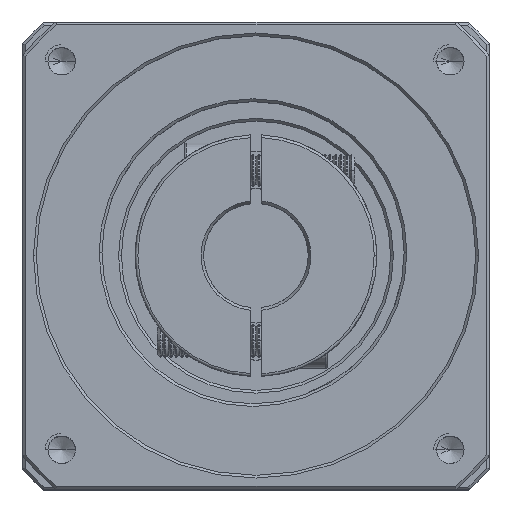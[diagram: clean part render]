
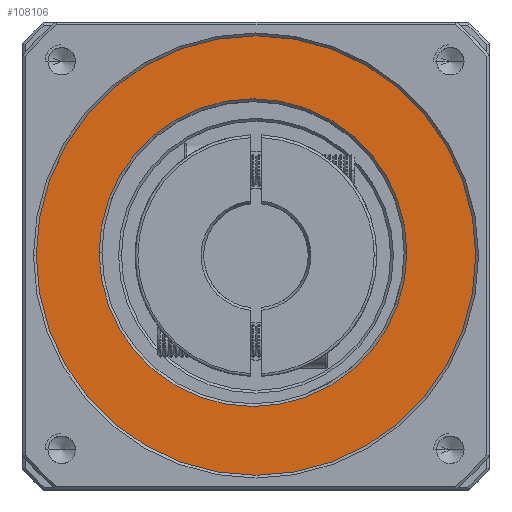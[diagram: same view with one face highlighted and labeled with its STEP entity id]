
A CAD part, top view. The second image highlights one B-rep face of the part: STEP entity #108106.
In plain terms, the highlighted planar face has unit normal (0, 0, 1).
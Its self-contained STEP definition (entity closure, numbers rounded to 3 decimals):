
#1000 = AXIS2_PLACEMENT_3D ( 'NONE', #105572, #94721, #65193 ) ;
#3642 = DIRECTION ( 'NONE',  ( 0., 0., 1. ) ) ;
#3686 = DIRECTION ( 'NONE',  ( 1., 0., 0. ) ) ;
#6308 = EDGE_LOOP ( 'NONE', ( #54849, #45879 ) ) ;
#8127 = CARTESIAN_POINT ( 'NONE',  ( -58.508, 52.391, -13.128 ) ) ;
#9285 = EDGE_CURVE ( 'NONE', #108531, #64631, #42943, .T. ) ;
#18953 = DIRECTION ( 'NONE',  ( 1., 0., 0. ) ) ;
#37246 = CARTESIAN_POINT ( 'NONE',  ( -29.966, 51.857, -13.128 ) ) ;
#37279 = CARTESIAN_POINT ( 'NONE',  ( -30.508, 52.391, -13.128 ) ) ;
#39276 = CARTESIAN_POINT ( 'NONE',  ( 10.034, 51.857, -13.128 ) ) ;
#40903 = EDGE_LOOP ( 'NONE', ( #117255, #70842 ) ) ;
#42899 = CIRCLE ( 'NONE', #61567, 28. ) ;
#42943 = CIRCLE ( 'NONE', #128951, 40. ) ;
#45879 = ORIENTED_EDGE ( 'NONE', *, *, #92176, .T. ) ;
#52908 = CARTESIAN_POINT ( 'NONE',  ( -29.966, 51.857, -13.128 ) ) ;
#54849 = ORIENTED_EDGE ( 'NONE', *, *, #9285, .T. ) ;
#56550 = DIRECTION ( 'NONE',  ( 1., 0., 0. ) ) ;
#58113 = DIRECTION ( 'NONE',  ( 0., 0., -1. ) ) ;
#60821 = EDGE_CURVE ( 'NONE', #71824, #83106, #96287, .T. ) ;
#61567 = AXIS2_PLACEMENT_3D ( 'NONE', #37279, #58113, #18953 ) ;
#63886 = FACE_BOUND ( 'NONE', #40903, .T. ) ;
#64631 = VERTEX_POINT ( 'NONE', #106361 ) ;
#65193 = DIRECTION ( 'NONE',  ( 1., 0., 0. ) ) ;
#70842 = ORIENTED_EDGE ( 'NONE', *, *, #60821, .T. ) ;
#71824 = VERTEX_POINT ( 'NONE', #8127 ) ;
#76726 = CARTESIAN_POINT ( 'NONE',  ( -2.508, 52.391, -13.128 ) ) ;
#83106 = VERTEX_POINT ( 'NONE', #76726 ) ;
#87811 = AXIS2_PLACEMENT_3D ( 'NONE', #52908, #3642, #113160 ) ;
#91925 = PLANE ( 'NONE',  #87811 ) ;
#92176 = EDGE_CURVE ( 'NONE', #64631, #108531, #92219, .T. ) ;
#92219 = CIRCLE ( 'NONE', #92967, 40. ) ;
#92967 = AXIS2_PLACEMENT_3D ( 'NONE', #104717, #115988, #56550 ) ;
#94721 = DIRECTION ( 'NONE',  ( 0., 0., -1. ) ) ;
#96287 = CIRCLE ( 'NONE', #1000, 28. ) ;
#104717 = CARTESIAN_POINT ( 'NONE',  ( -29.966, 51.857, -13.128 ) ) ;
#105572 = CARTESIAN_POINT ( 'NONE',  ( -30.508, 52.391, -13.128 ) ) ;
#106361 = CARTESIAN_POINT ( 'NONE',  ( -69.966, 51.857, -13.128 ) ) ;
#108106 = ADVANCED_FACE ( 'NONE', ( #121280, #63886 ), #91925, .T. ) ;
#108531 = VERTEX_POINT ( 'NONE', #39276 ) ;
#113160 = DIRECTION ( 'NONE',  ( 1., 0., 0. ) ) ;
#115988 = DIRECTION ( 'NONE',  ( 0., 0., 1. ) ) ;
#116132 = EDGE_CURVE ( 'NONE', #83106, #71824, #42899, .T. ) ;
#117255 = ORIENTED_EDGE ( 'NONE', *, *, #116132, .T. ) ;
#121280 = FACE_OUTER_BOUND ( 'NONE', #6308, .T. ) ;
#124904 = DIRECTION ( 'NONE',  ( 0., 0., 1. ) ) ;
#128951 = AXIS2_PLACEMENT_3D ( 'NONE', #37246, #124904, #3686 ) ;
